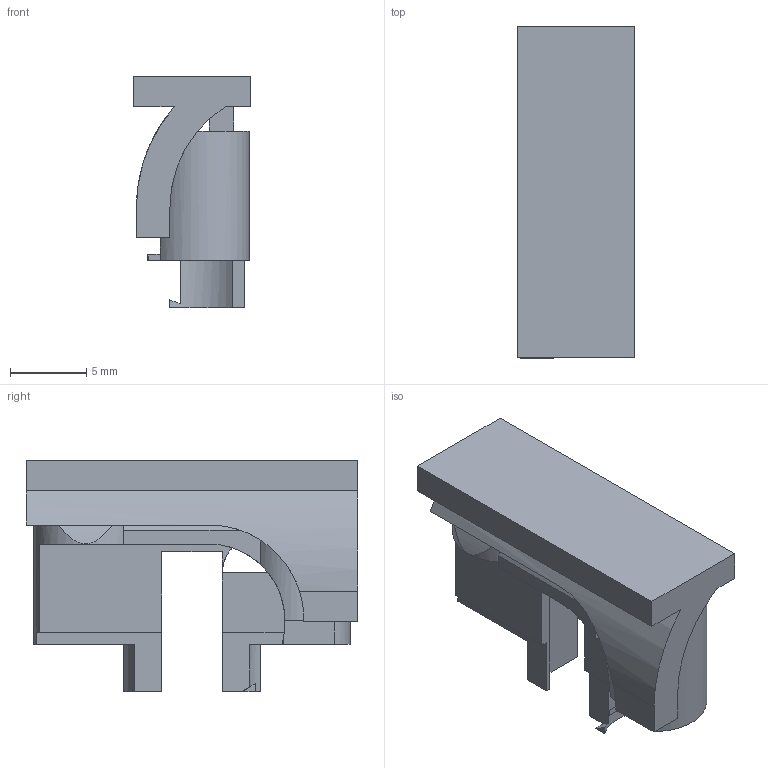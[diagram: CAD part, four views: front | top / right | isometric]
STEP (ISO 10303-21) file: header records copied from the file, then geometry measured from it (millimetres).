
FILE_DESCRIPTION(('Open CASCADE Model'),'2;1');
FILE_NAME('Open CASCADE Shape Model','2026-09-15T14:11:01',('Author'),( 'Open CASCADE'),'Open CASCADE STEP processor 7.7','Open CASCADE 7.7' ,'Unknown');
FILE_SCHEMA(('AUTOMOTIVE_DESIGN { 1 0 10303 214 1 1 1 1 }'));
Length unit declared in the file: millimetre
Products named in the file (1): SOLID
Bounding box: 7.7 x 21.8 x 15.2 mm (x, y, z)
Volume: 1135.9 mm3; surface area: 1330.7 mm2
Topology: 1 solids, 1 shells, 73 faces, 211 edges, 141 vertices
Faces by surface type: plane 54, cylinder 19
Full cylindrical faces by diameter (mm): 1.8 x2
Entity records: 6076 total; most frequent: CARTESIAN_POINT 1968, DIRECTION 729, LINE 455, VECTOR 455, ORIENTED_EDGE 422, PCURVE 422, DEFINITIONAL_REPRESENTATION 422, EDGE_CURVE 211
